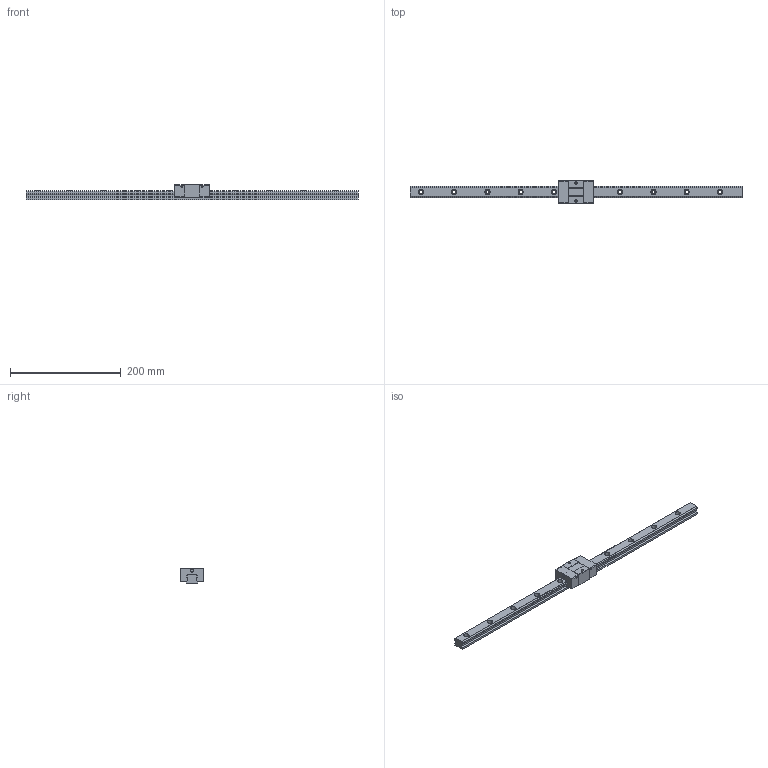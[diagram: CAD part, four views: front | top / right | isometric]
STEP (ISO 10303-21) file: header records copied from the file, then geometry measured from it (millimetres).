
FILE_DESCRIPTION (( 'STEP AP203' ), '1' );
FILE_NAME ('TRS20VS-SZ.STEP', '2024-07-11T08:12:14', ( '' ), ( '' ), 'SwSTEP 2.0', 'SolidWorks 2022', '' );
FILE_SCHEMA (( 'CONFIG_CONTROL_DESIGN' ));
Length unit declared in the file: millimetre
Products named in the file (1): TRS20VS-SZ
Bounding box: 600 x 42 x 28 mm (x, y, z)
Volume: 215241.7 mm3; surface area: 61347.7 mm2
Topology: 2 solids, 2 shells, 186 faces, 484 edges, 320 vertices
Faces by surface type: plane 94, cylinder 92
Entity records: 5863 total; most frequent: DIRECTION 1042, CARTESIAN_POINT 991, ORIENTED_EDGE 968, EDGE_CURVE 484, AXIS2_PLACEMENT_3D 371, VERTEX_POINT 320, LINE 300, VECTOR 300
